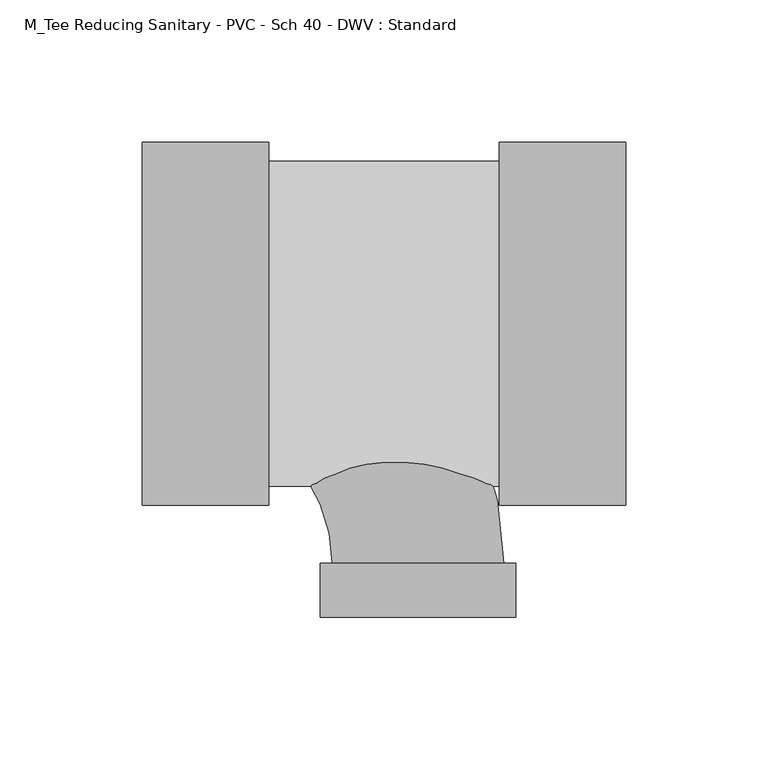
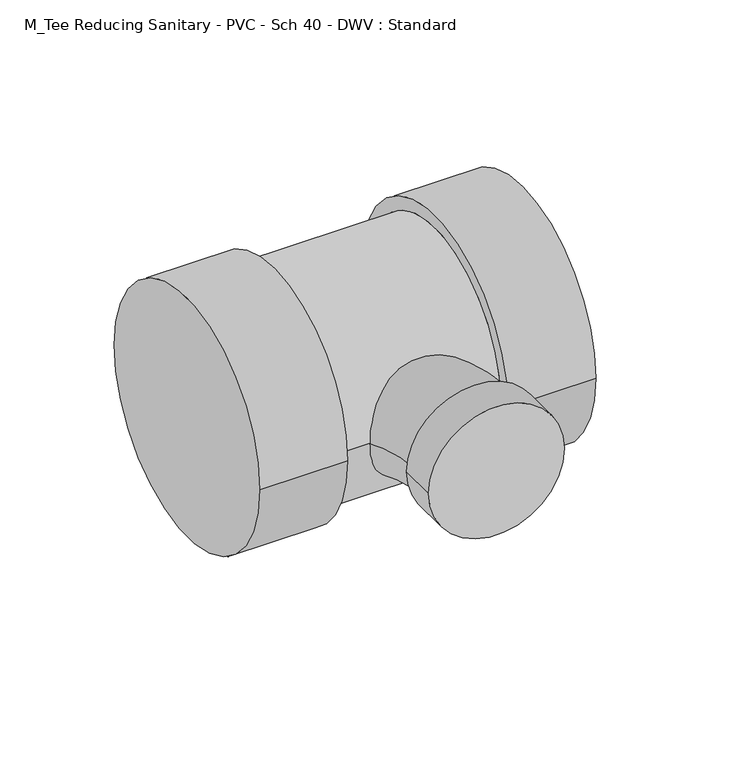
"""IFC4 building model written with IfcOpenShell, lengths in millimetres: pipe fitting geometry, M_Tee Reducing Sanitary - PVC - Sch 40 - DWV : Standard."""

from ifc_helpers import new_model, si_unit, point, frame, origin, place, context, project, spatial, circle_curve, ellipse_curve, trimmed, source, transform, mapped, element, save
from ifc_brep_helpers import plane_surface, cylinder_surface, revolved_surface, advanced_brep


def m_tee_reducing_sanitary_pvc_sch_40_dwv_standard_07fac418(model_context):
    return source(origin(), model_context, "Body", "AdvancedBrep", [
        advanced_brep(
        [(28.575, -63.754, 0.0), (28.575, 63.754, 0.0), (28.575, -57.15, 0.0), (28.575, 57.15, 0.0), (73.025, -63.754, 0.0), (73.025, 63.754, 0.0), (-52.4002, 57.15, 0.0), (-52.4002, -57.15, 0.0), (-96.8502, -63.754, 0.0), (-96.8502, 63.754, 0.0), (-52.4002, -63.754, 0.0), (-52.4002, 63.754, 0.0)],
        [
            (0, 1, circle_curve(frame((28.575, 0.0, 0.0), z_axis=(-1.0, 0.0, 0.0), x_axis=(0.0, 1.0, 0.0)), 63.754)),
            (1, 0, circle_curve(frame((28.575, 0.0, 0.0), z_axis=(-1.0, 0.0, 0.0), x_axis=(0.0, 1.0, 0.0)), 63.754)),
            (2, 3, circle_curve(frame((28.575, 0.0, 0.0), z_axis=(1.0, 0.0, 0.0), x_axis=(0.0, 0.0, -1.0)), 57.15)),
            (3, 2, circle_curve(frame((28.575, 0.0, 0.0), z_axis=(1.0, 0.0, 0.0), x_axis=(0.0, 0.0, 1.0)), 57.15)),
            (4, 5, circle_curve(frame((73.025, 0.0, 0.0), z_axis=(1.0, 0.0, 0.0), x_axis=(0.0, 1.0, 0.0)), 63.754)),
            (5, 4, circle_curve(frame((73.025, 0.0, 0.0), z_axis=(1.0, 0.0, 0.0), x_axis=(0.0, 1.0, 0.0)), 63.754)),
            (0, 4),
            (5, 1),
            (6, 3),
            (2, 7),
            (7, 6, circle_curve(frame((-52.4002, 0.0, 0.0), z_axis=(1.0, 0.0, 0.0), x_axis=(0.0, 0.0, -1.0)), 57.15)),
            (6, 7, circle_curve(frame((-52.4002, 0.0, 0.0), z_axis=(1.0, 0.0, 0.0), x_axis=(0.0, 0.0, 1.0)), 57.15)),
            (8, 9, circle_curve(frame((-96.8502, 0.0, 0.0), z_axis=(-1.0, 0.0, 0.0), x_axis=(0.0, 1.0, 0.0)), 63.754)),
            (9, 8, circle_curve(frame((-96.8502, 0.0, 0.0), z_axis=(-1.0, 0.0, 0.0), x_axis=(0.0, 1.0, 0.0)), 63.754)),
            (10, 11, circle_curve(frame((-52.4002, 0.0, 0.0), z_axis=(1.0, 0.0, 0.0), x_axis=(0.0, 1.0, 0.0)), 63.754)),
            (11, 10, circle_curve(frame((-52.4002, 0.0, 0.0), z_axis=(1.0, 0.0, 0.0), x_axis=(0.0, 1.0, 0.0)), 63.754)),
            (8, 10),
            (11, 9),
        ],
        [
            plane_surface(frame((28.575, 0.0, 0.0), z_axis=(-1.0, 0.0, 0.0), x_axis=(0.0, 0.0, 1.0))),
            plane_surface(frame((73.025, 0.0, 0.0), z_axis=(1.0, 0.0, 0.0), x_axis=(0.0, 0.0, 1.0))),
            cylinder_surface(frame((28.575, 0.0, 0.0), z_axis=(-1.0, 0.0, 0.0), x_axis=(0.0, 1.0, 0.0)), 63.754),
            cylinder_surface(frame((-52.4002, 0.0, 0.0), z_axis=(1.0, 0.0, 0.0), x_axis=(0.0, 0.0, -1.0)), 57.15),
            cylinder_surface(frame((-52.4002, 0.0, 0.0), z_axis=(1.0, 0.0, 0.0), x_axis=(0.0, 0.0, 1.0)), 57.15),
            plane_surface(frame((-96.8502, 0.0, 0.0), z_axis=(-1.0, 0.0, 0.0), x_axis=(0.0, 0.0, 1.0))),
            plane_surface(frame((-52.4002, 0.0, 0.0), z_axis=(1.0, 0.0, 0.0), x_axis=(0.0, 0.0, 1.0))),
            cylinder_surface(frame((-96.8502, 0.0, 0.0), z_axis=(-1.0, 0.0, 0.0), x_axis=(0.0, 1.0, 0.0)), 63.754),
        ],
        [
            (0, [[1, 2], [3, 4]]),
            (1, [[5, 6]]),
            (2, [[-1, 7, -6, 8]]),
            (2, [[-2, -8, -5, -7]]),
            (3, [[9, -3, 10, 11]]),
            (4, [[-9, 12, -10, -4]]),
            (5, [[13, 14]]),
            (6, [[15, 16], [-11, -12]]),
            (7, [[-13, 17, -16, 18]]),
            (7, [[-14, -18, -15, -17]]),
        ],
    ),
        advanced_brep(
        [(-34.3154, -84.1502, 0.0), (34.3154, -84.1502, 0.0), (30.1625, -84.1502, 0.0), (-30.1625, -84.1502, 0.0), (-34.3154, -103.2002, 0.0), (34.3154, -103.2002, 0.0), (-84.1502, -30.1625, 0.0), (-84.1502, 30.1625, 0.0)],
        [
            (0, 1, circle_curve(frame((0.0, -84.1502, 0.0), z_axis=(0.0, 1.0, 0.0), x_axis=(1.0, 0.0, 0.0)), 34.3154)),
            (1, 0, circle_curve(frame((0.0, -84.1502, 0.0), z_axis=(0.0, 1.0, 0.0), x_axis=(1.0, 0.0, 0.0)), 34.3154)),
            (2, 3, circle_curve(frame((0.0, -84.1502, 0.0), z_axis=(0.0, -1.0, 0.0), x_axis=(1.0, 0.0, 0.0)), 30.1625)),
            (3, 2, circle_curve(frame((0.0, -84.1502, 0.0), z_axis=(0.0, -1.0, 0.0), x_axis=(1.0, 0.0, 0.0)), 30.1625)),
            (4, 5, circle_curve(frame((0.0, -103.2002, 0.0), z_axis=(0.0, -1.0, 0.0), x_axis=(1.0, 0.0, 0.0)), 34.3154)),
            (5, 4, circle_curve(frame((0.0, -103.2002, 0.0), z_axis=(0.0, -1.0, 0.0), x_axis=(1.0, 0.0, 0.0)), 34.3154)),
            (0, 4),
            (5, 1),
            (6, 7, circle_curve(frame((-84.1502, 0.0, 0.0), z_axis=(-1.0, 0.0, 0.0), x_axis=(0.0, 1.0, 0.0)), 30.1625)),
            (7, 6, circle_curve(frame((-84.1502, 0.0, 0.0), z_axis=(-1.0, 0.0, 0.0), x_axis=(0.0, 1.0, 0.0)), 30.1625)),
            (6, 3, circle_curve(frame((-84.1502, -84.1502, 0.0), z_axis=(0.0, 0.0, -1.0), x_axis=(0.0, 1.0, 0.0)), 53.9877)),
            (2, 7, circle_curve(frame((-84.1502, -84.1502, 0.0), z_axis=(0.0, 0.0, 1.0), x_axis=(0.0, 1.0, 0.0)), 114.3127)),
        ],
        [
            plane_surface(frame((0.0, -84.1502, 0.0), z_axis=(0.0, 1.0, 0.0), x_axis=(0.0, 0.0, 1.0))),
            plane_surface(frame((0.0, -103.2002, 0.0), z_axis=(0.0, -1.0, 0.0), x_axis=(0.0, 0.0, 1.0))),
            cylinder_surface(frame((0.0, -84.1502, 0.0), z_axis=(0.0, 1.0, 0.0), x_axis=(1.0, 0.0, 0.0)), 34.3154),
            plane_surface(frame((-84.1502, 0.0, 0.0), z_axis=(-1.0, 0.0, 0.0), x_axis=(0.0, 0.0, 1.0))),
            revolved_surface(trimmed(ellipse_curve(frame((-84.1502, 0.0, 0.0), z_axis=(-1.0, 0.0, 0.0), x_axis=(0.0, 1.0, 0.0)), 30.1625, 30.1625), [point((-84.1502, -30.1625, 0.0))], [point((-84.1502, 30.1625, 0.0))], True, "CARTESIAN"), (-84.1502, -84.1502, 0.0), (0.0, 0.0, -1.0)),
            revolved_surface(trimmed(ellipse_curve(frame((-84.1502, 0.0, 0.0), z_axis=(-1.0, 0.0, 0.0), x_axis=(0.0, 1.0, 0.0)), 30.1625, 30.1625), [point((-84.1502, 30.1625, 0.0))], [point((-84.1502, -30.1625, 0.0))], True, "CARTESIAN"), (-84.1502, -84.1502, 0.0), (0.0, 0.0, -1.0)),
        ],
        [
            (0, [[1, 2], [3, 4]]),
            (1, [[5, 6]]),
            (2, [[-1, 7, -6, 8]]),
            (2, [[-2, -8, -5, -7]]),
            (3, [[9, 10]]),
            (4, [[-9, 11, -3, 12]]),
            (5, [[-10, -12, -4, -11]]),
        ],
    ),
    ])


if __name__ == "__main__":
    model = new_model("IFC4")
    model_context = context("Model", 3, world=origin())
    ifc_project = project(units=[si_unit("LENGTHUNIT", "METRE", prefix="MILLI")], contexts=[model_context])
    site = spatial("IfcSite", under=ifc_project)
    building = spatial("IfcBuilding", under=site)
    placement = place(None, origin())
    m_tee_reducing_sanitary_pvc_sch_40_dwv_standard_shape = m_tee_reducing_sanitary_pvc_sch_40_dwv_standard_07fac418(model_context)
    element("IfcPipeFitting", 1, ObjectType="M_Tee Reducing Sanitary - PVC - Sch 40 - DWV : Standard", at=placement, inside=building, context=model_context, shape_type="MappedRepresentation", body=[
        mapped(m_tee_reducing_sanitary_pvc_sch_40_dwv_standard_shape, transform((0.0, 0.0, 0.0), x_axis=(1.0, 0.0, 0.0), y_axis=(0.0, 1.0, 0.0), z_axis=(0.0, 0.0, 1.0))),
    ])
    save(model, "model.ifc")
